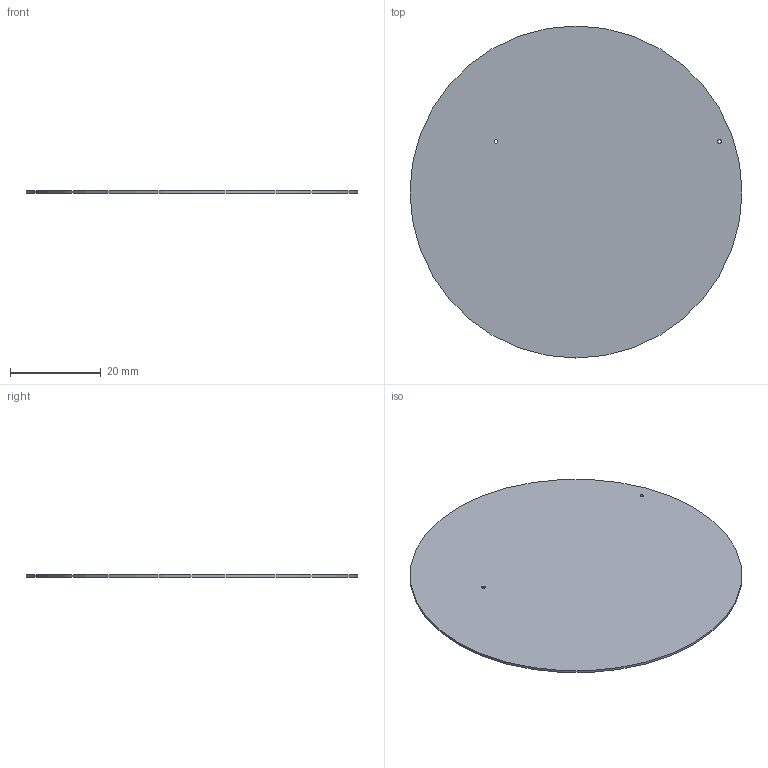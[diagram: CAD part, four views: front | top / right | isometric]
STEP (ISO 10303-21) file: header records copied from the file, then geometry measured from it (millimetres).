
FILE_DESCRIPTION(/* description */ (''),/* implementation_level */ '2;1');
FILE_NAME(/* name */ 'E:/hidden/Engineering Projects/Leslie Controls SuperTyfon/CAD/Components/24437 Diaphragm.step',/* time_stamp */ '2022-08-18T19:35:00+10:00',/* author */ (''),/* organization */ (''),/* preprocessor_version */ 'ST-DEVELOPER v19',/* originating_system */ 'Autodesk Translation Framework v11.7.0.108',/* authorisation */ '');
FILE_SCHEMA (('AUTOMOTIVE_DESIGN { 1 0 10303 214 3 1 1 }'));
Length unit declared in the file: inch
Products named in the file (1): 24437 Diaphragm
Bounding box: 73.03 x 73.03 x 0.51 mm (x, y, z)
Volume: 2127.1 mm3; surface area: 8493.6 mm2
Topology: 1 solids, 1 shells, 5 faces, 9 edges, 6 vertices
Faces by surface type: cylinder 3, plane 2
Full cylindrical faces by diameter (mm): 0.794 x2, 73.025 x1
Entity records: 172 total; most frequent: DIRECTION 27, CARTESIAN_POINT 21, ORIENTED_EDGE 18, AXIS2_PLACEMENT_3D 12, EDGE_LOOP 9, EDGE_CURVE 9, CIRCLE 6, VERTEX_POINT 6
